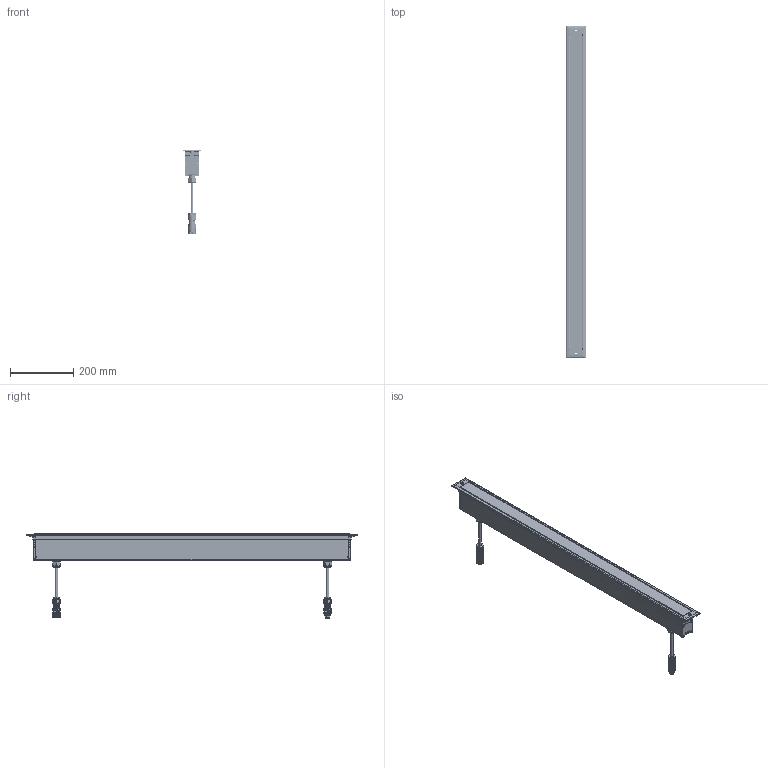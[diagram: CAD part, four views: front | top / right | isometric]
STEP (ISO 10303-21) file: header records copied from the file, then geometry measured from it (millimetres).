
FILE_DESCRIPTION(/* description */ ('Unknown'),/* implementation_level */ '2;1');
FILE_NAME(/* name */ 'ARCHILINE A 41.4',/* time_stamp */ '2023-01-24T02:36:49-05:00',/* author */ ('Unknown'),/* organization */ ('Unknown'),/* preprocessor_version */ 'ST-DEVELOPER v18.1',/* originating_system */ 'Solid Edge',/* authorisation */ 'Unknown');
FILE_SCHEMA (('AUTOMOTIVE_DESIGN {1 0 10303 214 3 1 1}'));
Products named in the file (1): ARCHILINE A 41.4
Bounding box: 62 x 1051 x 266.28 mm (x, y, z)
Volume: 1324339.7 mm3; surface area: 790357.4 mm2
Topology: 25 solids, 27 shells, 5815 faces, 16505 edges, 10838 vertices
Faces by surface type: plane 2892, cylinder 1467, bspline 839, torus 302, cone 221, sphere 94
Full cylindrical faces by diameter (mm): 2 x21, 2.02 x9, 2.05 x5, 2.494 x1, 2.6 x12, 2.9 x120, 3 x14, 3.242 x4, 4.8 x2, 4.922 x2, 5.5 x1, 6.5 x12, 6.8 x8, 7 x2, 8 x1, 8.13 x2, 8.2 x2, 10.376 x1, 12 x3, 17 x1, 17.168 x4, 18.513 x2, 18.7 x2, 18.724 x2, 19 x10, 19.73 x2, 19.919 x2, 20.14 x6, 20.317 x1, 20.4 x4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
Entity records: 352508 total; most frequent: CARTESIAN_POINT 176842, ORIENTED_EDGE 31134, DIRECTION 26451, EDGE_CURVE 15567, VERTEX_POINT 10435, AXIS2_PLACEMENT_3D 9831, LINE 6789, VECTOR 6789
